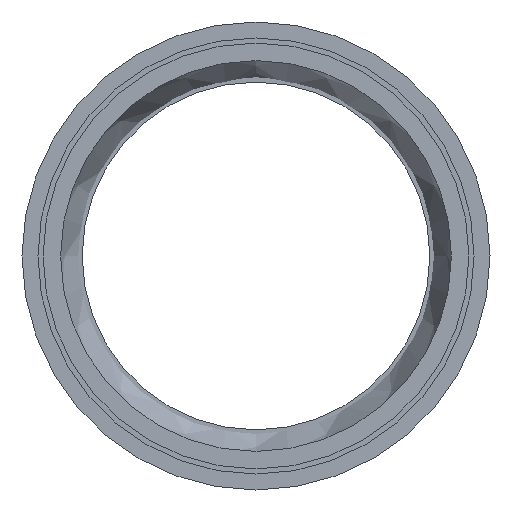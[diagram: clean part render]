
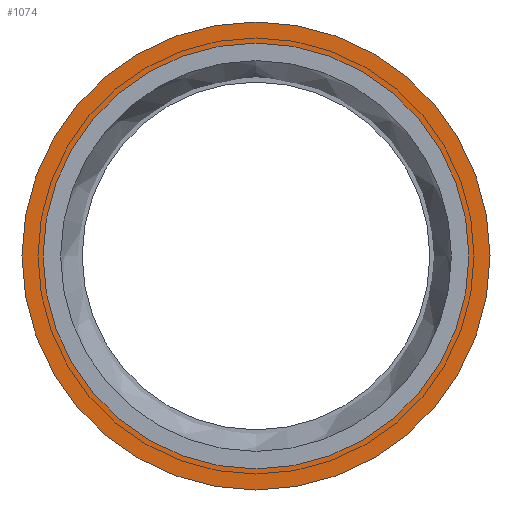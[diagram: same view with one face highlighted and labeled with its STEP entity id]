
A CAD part, left-side view. The second image highlights one B-rep face of the part: STEP entity #1074.
In plain terms, the highlighted planar face has unit normal (-1, 0, 0).
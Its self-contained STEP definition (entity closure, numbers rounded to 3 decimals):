
#135=PLANE('',#1196);
#195=FACE_BOUND('',#377,.T.);
#196=FACE_BOUND('',#378,.T.);
#377=EDGE_LOOP('',(#909));
#378=EDGE_LOOP('',(#910));
#433=CIRCLE('',#1195,45.5);
#434=CIRCLE('',#1197,41.4);
#541=VERTEX_POINT('',#4128);
#542=VERTEX_POINT('',#4131);
#665=EDGE_CURVE('',#541,#541,#433,.T.);
#666=EDGE_CURVE('',#542,#542,#434,.T.);
#909=ORIENTED_EDGE('',*,*,#666,.F.);
#910=ORIENTED_EDGE('',*,*,#665,.T.);
#1074=ADVANCED_FACE('',(#195,#196),#135,.T.);
#1195=AXIS2_PLACEMENT_3D('',#4129,#1425,#1426);
#1196=AXIS2_PLACEMENT_3D('',#4130,#1427,#1428);
#1197=AXIS2_PLACEMENT_3D('',#4132,#1429,#1430);
#1425=DIRECTION('center_axis',(-1.,0.,0.));
#1426=DIRECTION('ref_axis',(0.,0.,
-1.));
#1427=DIRECTION('center_axis',(-1.,0.,0.));
#1428=DIRECTION('ref_axis',(0.,0.,-1.));
#1429=DIRECTION('center_axis',(-1.,0.,0.));
#1430=DIRECTION('ref_axis',(0.,0.,
-1.));
#4128=CARTESIAN_POINT('',(-550.39,-45.5,0.));
#4129=CARTESIAN_POINT('Origin',(-550.39,0.,0.));
#4130=CARTESIAN_POINT('Origin',(-550.39,-41.4,0.));
#4131=CARTESIAN_POINT('',(-550.39,-41.4,0.));
#4132=CARTESIAN_POINT('Origin',(-550.39,0.,0.));
